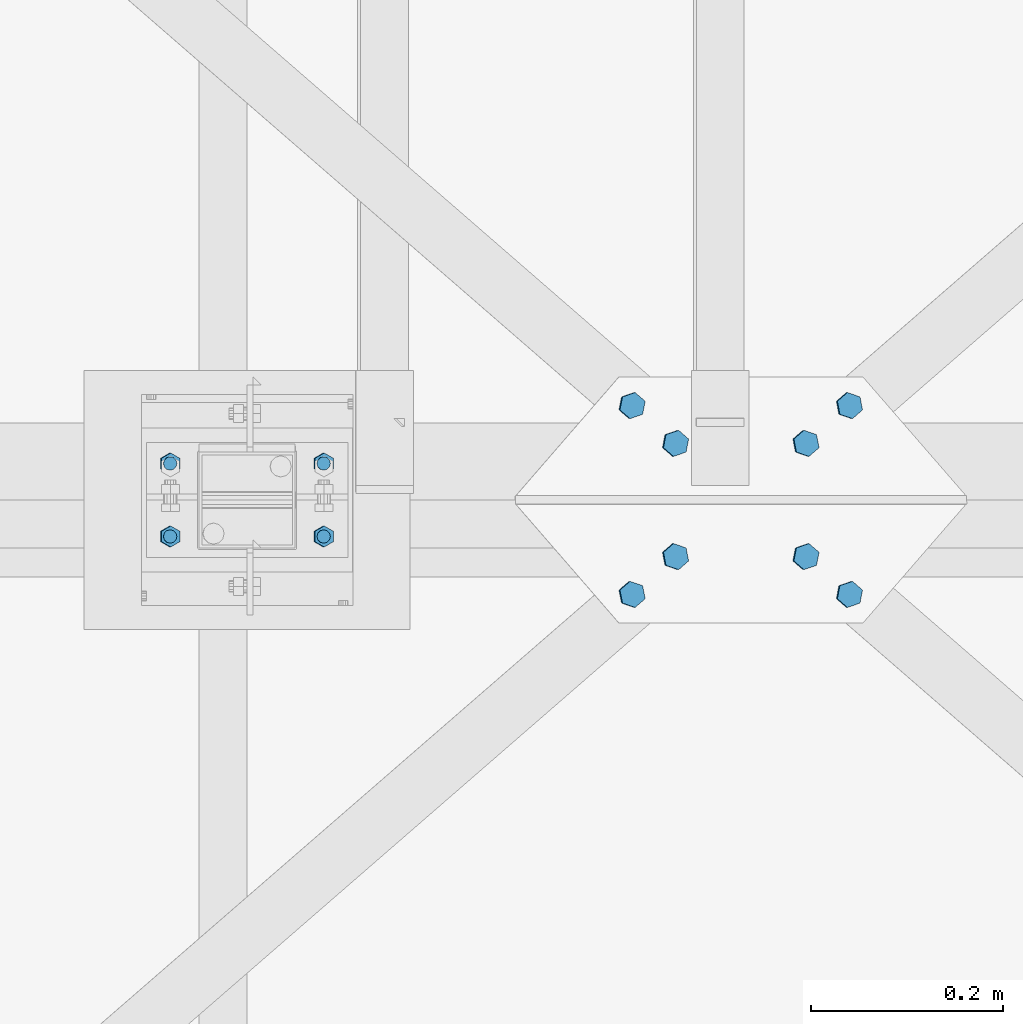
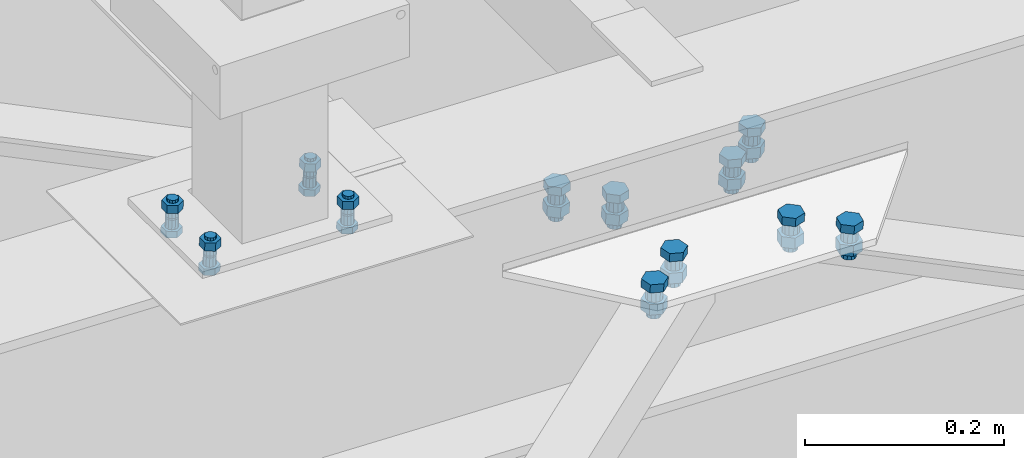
# One storey, part 241 of 3134: 6 mechanical fasteners, 4 elements without a shape of their own.
"""IFC2X3 building model written with IfcOpenShell, lengths in millimetres."""

from ifc_helpers import new_model, si_unit, frame, origin_with_axes, place, context, subcontext, project, spatial, faceted_brep, source, transform, mapped, material, type_object, element, aggregate, save


model = new_model("IFC2X3")

# Units and contexts
model_context = context("Model", 3, precision=1e-05, world=origin_with_axes())
body_context = subcontext(model_context, "Body", "Model", "MODEL_VIEW")
ifc_project = project(units=[si_unit("LENGTHUNIT", "METRE", prefix="MILLI"), si_unit("AREAUNIT", "SQUARE_METRE"), si_unit("VOLUMEUNIT", "CUBIC_METRE"), si_unit("MASSUNIT", "GRAM", prefix="KILO"), si_unit("TIMEUNIT", "SECOND"), si_unit("PLANEANGLEUNIT", "RADIAN"), si_unit("SOLIDANGLEUNIT", "STERADIAN"), si_unit("THERMODYNAMICTEMPERATUREUNIT", "DEGREE_CELSIUS"), si_unit("LUMINOUSINTENSITYUNIT", "LUMEN")], contexts=[model_context])

# Site, building, storey
site_placement = place(None, origin_with_axes())
site = spatial("IfcSite", under=ifc_project, at=site_placement, CompositionType="ELEMENT")
building_placement = place(site_placement, origin_with_axes())
building = spatial("IfcBuilding", under=site, at=building_placement, Name="Undefined", CompositionType="ELEMENT")
storey_placement = place(building_placement, origin_with_axes())
storey = spatial("IfcBuildingStorey", under=building, at=storey_placement, Name="Undefined", CompositionType="ELEMENT", Elevation=0.0)

# Assembly, mechanical fastener
assembly_1_placement = place(storey_placement, origin_with_axes())
assembly_1 = element("IfcElementAssembly", 1, at=assembly_1_placement, inside=storey, AssemblyPlace="NOTDEFINED", PredefinedType="RIGID_FRAME")
ifc_material = material(Name="8.8")
mechanical_fastener_type = type_object("IfcMechanicalFastenerType", Name="Bolt assembly")
shared_shape_1 = source(origin_with_axes(), body_context, "Body", "Brep", [
    faceted_brep([(7.0, 13.0000253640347, 0.0), (6.06217782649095, 13.0000253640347, 3.50000000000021), (3.49999999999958, 13.0000253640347, 6.06217782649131), (-7.25435187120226e-13, 13.0000253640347, 7.0), (-3.50000000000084, 13.0000253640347, 6.06217782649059), (-6.06217782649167, 13.0000253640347, 3.49999999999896), (-7.0, 13.0000253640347, -1.45087037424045e-12), (-6.06217782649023, 13.0000253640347, -3.50000000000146), (-3.49999999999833, 13.0000253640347, -6.06217782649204), (2.1685340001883e-12, 13.0000253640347, -7.0), (3.50000000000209, 13.0000253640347, -6.06217782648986), (6.0621778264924, 13.0000253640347, -3.4999999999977), (6.0621778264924, 15.0999999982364, -3.4999999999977), (3.50000000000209, 15.0999999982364, -6.06217782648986), (2.1685340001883e-12, 15.0999999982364, -7.0), (-3.49999999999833, 15.0999999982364, -6.06217782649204), (-6.06217782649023, 15.0999999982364, -3.50000000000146), (-7.0, 15.0999999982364, -1.45087037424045e-12), (-6.06217782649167, 15.0999999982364, 3.49999999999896), (-3.50000000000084, 15.0999999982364, 6.06217782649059), (-7.25435187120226e-13, 15.0999999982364, 7.0), (3.49999999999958, 15.0999999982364, 6.06217782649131), (6.06217782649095, 15.0999999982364, 3.50000000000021), (7.0, 15.0999999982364, 0.0)], [[[0, 1, 2, 3, 4, 5, 6, 7, 8, 9, 10, 11]], [[12, 13, 14, 15, 16, 17, 18, 19, 20, 21, 22, 23]], [[0, 23, 22, 1]], [[1, 22, 21, 2]], [[2, 21, 20, 3]], [[3, 20, 19, 4]], [[4, 19, 18, 5]], [[5, 18, 17, 6]], [[6, 17, 16, 7]], [[7, 16, 15, 8]], [[8, 15, 14, 9]], [[9, 14, 13, 10]], [[10, 13, 12, 11]], [[11, 12, 23, 0]]]),
])
mechanical_fastener_1_placement = place(assembly_1_placement, frame((28846.2851187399, 58258.0, 10291.8572055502), z_axis=(-0.99951962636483, 0.0, 0.0309922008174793), x_axis=(0.0, -1.0, 0.0)))
mechanical_fastener_1 = element("IfcMechanicalFastener", 2, at=mechanical_fastener_1_placement, type_object=mechanical_fastener_type, material=ifc_material, Name="Bolt assembly", NominalDiameter=12.0, NominalLength=2.0, context=body_context, shape_type="MappedRepresentation", body=[
    mapped(shared_shape_1, transform((0.0, -5.32963895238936e-10, -79.9999999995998))),
    mapped(shared_shape_1, transform((76.0, -5.32963895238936e-10, -79.9999999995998))),
    mapped(shared_shape_1, transform((0.0, 5.3114490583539e-10, 79.9999999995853))),
    mapped(shared_shape_1, transform((76.0, 5.3114490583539e-10, 79.9999999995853))),
])
aggregate(assembly_1, [mechanical_fastener_1])

assembly_2_placement = place(storey_placement, origin_with_axes())
assembly_2 = element("IfcElementAssembly", 3, at=assembly_2_placement, inside=storey, AssemblyPlace="NOTDEFINED", PredefinedType="RIGID_FRAME")
shared_shape_2 = source(origin_with_axes(), body_context, "Body", "Brep", [
    faceted_brep([(13.856406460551, -14.0, 0.0), (6.92820323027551, -14.0, 12.0), (-6.92820323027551, -14.0, 12.0), (-13.856406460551, -14.0, 1.69692038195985e-15), (-6.92820323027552, -14.0, -12.0), (6.9282032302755, -14.0, -12.0), (6.9282032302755, -4.00000145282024, -12.0), (-6.92820323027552, -4.00000145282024, -12.0), (-13.856406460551, -4.00000145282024, 1.69692038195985e-15), (-6.92820323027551, -4.00000145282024, 12.0), (6.92820323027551, -4.00000145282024, 12.0), (13.856406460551, -4.00000145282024, 0.0), (8.0, -4.00000145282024, 0.0), (6.92820323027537, -4.00000145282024, 4.00000000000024), (3.99999999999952, -4.00000145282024, 6.92820323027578), (-8.29068785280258e-13, -4.00000145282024, 8.0), (-4.00000000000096, -4.00000145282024, 6.92820323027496), (-6.9282032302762, -4.00000145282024, 3.99999999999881), (-8.0, -4.00000145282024, -1.65813757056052e-12), (-6.92820323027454, -4.00000145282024, -4.00000000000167), (-3.99999999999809, -4.00000145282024, -6.92820323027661), (2.47832457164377e-12, -4.00000145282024, -8.0), (4.00000000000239, -4.00000145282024, -6.92820323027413), (6.92820323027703, -4.00000145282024, -3.99999999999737), (6.92820323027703, 31.0, -3.99999999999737), (4.00000000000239, 31.0, -6.92820323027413), (2.47832457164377e-12, 31.0, -8.0), (-3.99999999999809, 31.0, -6.92820323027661), (-6.92820323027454, 31.0, -4.00000000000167), (-8.0, 31.0, -1.65813757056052e-12), (-6.9282032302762, 31.0, 3.99999999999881), (-4.00000000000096, 31.0, 6.92820323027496), (-8.29068785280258e-13, 31.0, 8.0), (3.99999999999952, 31.0, 6.92820323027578), (6.92820323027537, 31.0, 4.00000000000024), (8.0, 31.0, 0.0), (13.856406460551, 9.99999995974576, 0.0), (6.92820323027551, 9.99999995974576, 12.0), (-6.92820323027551, 9.99999995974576, 12.0), (-13.856406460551, 9.99999995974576, 1.69692038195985e-15), (-6.92820323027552, 9.99999995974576, -12.0), (6.9282032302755, 9.99999995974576, -12.0), (6.9282032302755, 22.9999913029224, -12.0), (-6.92820323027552, 22.9999913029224, -12.0), (-13.856406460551, 22.9999913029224, 1.69692038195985e-15), (-6.92820323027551, 22.9999913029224, 12.0), (6.92820323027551, 22.9999913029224, 12.0), (13.856406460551, 22.9999913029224, 0.0)], [[[0, 1, 2, 3, 4, 5]], [[6, 7, 8, 9, 10, 11]], [[0, 11, 10, 1]], [[1, 10, 9, 2]], [[2, 9, 8, 3]], [[3, 8, 7, 4]], [[4, 7, 6, 5]], [[5, 6, 11, 0]], [[12, 13, 14, 15, 16, 17, 18, 19, 20, 21, 22, 23]], [[24, 25, 26, 27, 28, 29, 30, 31, 32, 33, 34, 35]], [[12, 35, 34, 13]], [[13, 34, 33, 14]], [[14, 33, 32, 15]], [[15, 32, 31, 16]], [[16, 31, 30, 17]], [[17, 30, 29, 18]], [[18, 29, 28, 19]], [[19, 28, 27, 20]], [[20, 27, 26, 21]], [[21, 26, 25, 22]], [[22, 25, 24, 23]], [[23, 24, 35, 12]], [[36, 37, 38, 39, 40, 41]], [[42, 43, 44, 45, 46, 47]], [[36, 47, 46, 37]], [[37, 46, 45, 38]], [[38, 45, 44, 39]], [[39, 44, 43, 40]], [[40, 43, 42, 41]], [[41, 42, 47, 36]]]),
    faceted_brep([(9.0, -3.9, 0.0), (7.79422863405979, -3.9, 4.50000000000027), (4.49999999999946, -3.9, 7.79422863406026), (-9.3270238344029e-13, -3.9, 9.0), (-4.50000000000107, -3.9, 7.79422863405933), (-7.79422863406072, -3.9, 4.49999999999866), (-9.0, -3.9, -1.86540476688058e-12), (-7.79422863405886, -3.9, -4.50000000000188), (-4.49999999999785, -3.9, -7.79422863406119), (2.78811514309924e-12, -3.9, -9.0), (4.50000000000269, -3.9, -7.7942286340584), (7.79422863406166, -3.9, -4.49999999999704), (7.79422863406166, 4.09999854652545, -4.49999999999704), (4.50000000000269, 4.09999854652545, -7.7942286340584), (2.78811514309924e-12, 4.09999854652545, -9.0), (-4.49999999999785, 4.09999854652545, -7.79422863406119), (-7.79422863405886, 4.09999854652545, -4.50000000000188), (-9.0, 4.09999854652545, -1.86540476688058e-12), (-7.79422863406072, 4.09999854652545, 4.49999999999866), (-4.50000000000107, 4.09999854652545, 7.79422863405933), (-9.3270238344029e-13, 4.09999854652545, 9.0), (4.49999999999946, 4.09999854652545, 7.79422863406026), (7.79422863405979, 4.09999854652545, 4.50000000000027), (9.0, 4.09999854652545, 0.0), (9.0, 3.9, 0.0), (7.79422863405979, 3.9, 4.50000000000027), (4.49999999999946, 3.9, 7.79422863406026), (-9.3270238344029e-13, 3.9, 9.0), (-4.50000000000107, 3.9, 7.79422863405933), (-7.79422863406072, 3.9, 4.49999999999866), (-9.0, 3.9, -1.86540476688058e-12), (-7.79422863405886, 3.9, -4.50000000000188), (-4.49999999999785, 3.9, -7.79422863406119), (2.78811514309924e-12, 3.9, -9.0), (4.50000000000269, 3.9, -7.7942286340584), (7.79422863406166, 3.9, -4.49999999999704), (7.79422863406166, 9.99999995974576, -4.49999999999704), (4.50000000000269, 9.99999995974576, -7.7942286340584), (2.78811514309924e-12, 9.99999995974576, -9.0), (-4.49999999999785, 9.99999995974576, -7.79422863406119), (-7.79422863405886, 9.99999995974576, -4.50000000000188), (-9.0, 9.99999995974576, -1.86540476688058e-12), (-7.79422863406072, 9.99999995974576, 4.49999999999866), (-4.50000000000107, 9.99999995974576, 7.79422863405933), (-9.3270238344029e-13, 9.99999995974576, 9.0), (4.49999999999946, 9.99999995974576, 7.79422863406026), (7.79422863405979, 9.99999995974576, 4.50000000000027), (9.0, 9.99999995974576, 0.0)], [[[0, 1, 2, 3, 4, 5, 6, 7, 8, 9, 10, 11]], [[12, 13, 14, 15, 16, 17, 18, 19, 20, 21, 22, 23]], [[0, 23, 22, 1]], [[1, 22, 21, 2]], [[2, 21, 20, 3]], [[3, 20, 19, 4]], [[4, 19, 18, 5]], [[5, 18, 17, 6]], [[6, 17, 16, 7]], [[7, 16, 15, 8]], [[8, 15, 14, 9]], [[9, 14, 13, 10]], [[10, 13, 12, 11]], [[11, 12, 23, 0]], [[24, 25, 26, 27, 28, 29, 30, 31, 32, 33, 34, 35]], [[36, 37, 38, 39, 40, 41, 42, 43, 44, 45, 46, 47]], [[24, 47, 46, 25]], [[25, 46, 45, 26]], [[26, 45, 44, 27]], [[27, 44, 43, 28]], [[28, 43, 42, 29]], [[29, 42, 41, 30]], [[30, 41, 40, 31]], [[31, 40, 39, 32]], [[32, 39, 38, 33]], [[33, 38, 37, 34]], [[34, 37, 36, 35]], [[35, 36, 47, 24]]]),
])
mechanical_fastener_2_placement = place(assembly_2_placement, frame((29248.0234175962, 58121.6643115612, 10132.3444125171), z_axis=(-0.655256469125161, 0.755133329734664, 0.0203129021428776), x_axis=(0.754770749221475, 0.655571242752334, -0.0233979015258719)))
mechanical_fastener_2 = element("IfcMechanicalFastener", 4, at=mechanical_fastener_2_placement, type_object=mechanical_fastener_type, material=ifc_material, Name="Bolt assembly", NominalDiameter=16.0, NominalLength=35.0, context=body_context, shape_type="MappedRepresentation", body=[
    mapped(shared_shape_2, transform((0.0, 0.0, 0.0))),
    mapped(shared_shape_2, transform((59.9999999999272, 0.0, 5.40239852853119e-10))),
])
aggregate(assembly_2, [mechanical_fastener_2])

assembly_3_placement = place(storey_placement, origin_with_axes())
assembly_3 = element("IfcElementAssembly", 5, at=assembly_3_placement, inside=storey, AssemblyPlace="NOTDEFINED", PredefinedType="RIGID_FRAME")
mechanical_fastener_3_placement = place(assembly_3_placement, frame((29248.0296353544, 58318.3270207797, 10132.3442197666), z_axis=(0.655246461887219, 0.755142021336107, -0.020312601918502), x_axis=(0.754779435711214, -0.655561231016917, -0.0233982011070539)))
mechanical_fastener_3 = element("IfcMechanicalFastener", 6, at=mechanical_fastener_3_placement, type_object=mechanical_fastener_type, material=ifc_material, Name="Bolt assembly", NominalDiameter=16.0, NominalLength=35.0, context=body_context, shape_type="MappedRepresentation", body=[
    mapped(shared_shape_2, transform((0.0, 0.0, 0.0))),
    mapped(shared_shape_2, transform((59.9999999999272, 0.0, 5.40239852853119e-10))),
])
aggregate(assembly_3, [mechanical_fastener_3])

# Assembly, mechanical fasteners
assembly_4_placement = place(storey_placement, origin_with_axes())
assembly_4 = element("IfcElementAssembly", 7, at=assembly_4_placement, inside=storey, Name="IPE330", AssemblyPlace="NOTDEFINED", PredefinedType="RIGID_FRAME")
shared_shape_3 = source(origin_with_axes(), body_context, "Body", "Brep", [
    faceted_brep([(13.856406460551, -14.0, 0.0), (6.92820323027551, -14.0, 12.0), (-6.92820323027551, -14.0, 12.0), (-13.856406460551, -14.0, 1.69692038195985e-15), (-6.92820323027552, -14.0, -12.0), (6.9282032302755, -14.0, -12.0), (6.9282032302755, -4.00000145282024, -12.0), (-6.92820323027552, -4.00000145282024, -12.0), (-13.856406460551, -4.00000145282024, 1.69692038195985e-15), (-6.92820323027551, -4.00000145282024, 12.0), (6.92820323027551, -4.00000145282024, 12.0), (13.856406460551, -4.00000145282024, 0.0), (8.0, -4.00000145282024, 0.0), (6.92820323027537, -4.00000145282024, 4.00000000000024), (3.99999999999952, -4.00000145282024, 6.92820323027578), (-8.29068785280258e-13, -4.00000145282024, 8.0), (-4.00000000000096, -4.00000145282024, 6.92820323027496), (-6.9282032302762, -4.00000145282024, 3.99999999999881), (-8.0, -4.00000145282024, -1.65813757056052e-12), (-6.92820323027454, -4.00000145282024, -4.00000000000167), (-3.99999999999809, -4.00000145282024, -6.92820323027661), (2.47832457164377e-12, -4.00000145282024, -8.0), (4.00000000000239, -4.00000145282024, -6.92820323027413), (6.92820323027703, -4.00000145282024, -3.99999999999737), (6.92820323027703, 31.0, -3.99999999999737), (4.00000000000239, 31.0, -6.92820323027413), (2.47832457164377e-12, 31.0, -8.0), (-3.99999999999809, 31.0, -6.92820323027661), (-6.92820323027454, 31.0, -4.00000000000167), (-8.0, 31.0, -1.65813757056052e-12), (-6.9282032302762, 31.0, 3.99999999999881), (-4.00000000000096, 31.0, 6.92820323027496), (-8.29068785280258e-13, 31.0, 8.0), (3.99999999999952, 31.0, 6.92820323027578), (6.92820323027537, 31.0, 4.00000000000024), (8.0, 31.0, 0.0), (13.856406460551, 9.99999995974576, 0.0), (6.92820323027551, 9.99999995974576, 12.0), (-6.92820323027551, 9.99999995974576, 12.0), (-13.856406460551, 9.99999995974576, 1.69692038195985e-15), (-6.92820323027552, 9.99999995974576, -12.0), (6.9282032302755, 9.99999995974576, -12.0), (6.9282032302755, 22.9999913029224, -12.0), (-6.92820323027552, 22.9999913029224, -12.0), (-13.856406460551, 22.9999913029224, 1.69692038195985e-15), (-6.92820323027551, 22.9999913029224, 12.0), (6.92820323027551, 22.9999913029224, 12.0), (13.856406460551, 22.9999913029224, 0.0)], [[[0, 1, 2, 3, 4, 5]], [[6, 7, 8, 9, 10, 11]], [[0, 11, 10, 1]], [[1, 10, 9, 2]], [[2, 9, 8, 3]], [[3, 8, 7, 4]], [[4, 7, 6, 5]], [[5, 6, 11, 0]], [[12, 13, 14, 15, 16, 17, 18, 19, 20, 21, 22, 23]], [[24, 25, 26, 27, 28, 29, 30, 31, 32, 33, 34, 35]], [[12, 35, 34, 13]], [[13, 34, 33, 14]], [[14, 33, 32, 15]], [[15, 32, 31, 16]], [[16, 31, 30, 17]], [[17, 30, 29, 18]], [[18, 29, 28, 19]], [[19, 28, 27, 20]], [[20, 27, 26, 21]], [[21, 26, 25, 22]], [[22, 25, 24, 23]], [[23, 24, 35, 12]], [[36, 37, 38, 39, 40, 41]], [[42, 43, 44, 45, 46, 47]], [[36, 47, 46, 37]], [[37, 46, 45, 38]], [[38, 45, 44, 39]], [[39, 44, 43, 40]], [[40, 43, 42, 41]], [[41, 42, 47, 36]]]),
    faceted_brep([(9.0, 3.9, 0.0), (7.79422863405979, 3.9, 4.50000000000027), (4.49999999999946, 3.9, 7.79422863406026), (-9.3270238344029e-13, 3.9, 9.0), (-4.50000000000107, 3.9, 7.79422863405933), (-7.79422863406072, 3.9, 4.49999999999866), (-9.0, 3.9, -1.86540476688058e-12), (-7.79422863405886, 3.9, -4.50000000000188), (-4.49999999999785, 3.9, -7.79422863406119), (2.78811514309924e-12, 3.9, -9.0), (4.50000000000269, 3.9, -7.7942286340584), (7.79422863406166, 3.9, -4.49999999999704), (7.79422863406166, 9.99999995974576, -4.49999999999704), (4.50000000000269, 9.99999995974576, -7.7942286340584), (2.78811514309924e-12, 9.99999995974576, -9.0), (-4.49999999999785, 9.99999995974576, -7.79422863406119), (-7.79422863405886, 9.99999995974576, -4.50000000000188), (-9.0, 9.99999995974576, -1.86540476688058e-12), (-7.79422863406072, 9.99999995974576, 4.49999999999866), (-4.50000000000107, 9.99999995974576, 7.79422863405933), (-9.3270238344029e-13, 9.99999995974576, 9.0), (4.49999999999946, 9.99999995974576, 7.79422863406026), (7.79422863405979, 9.99999995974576, 4.50000000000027), (9.0, 9.99999995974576, 0.0), (9.0, -3.9, 0.0), (7.79422863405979, -3.9, 4.50000000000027), (4.49999999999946, -3.9, 7.79422863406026), (-9.3270238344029e-13, -3.9, 9.0), (-4.50000000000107, -3.9, 7.79422863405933), (-7.79422863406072, -3.9, 4.49999999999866), (-9.0, -3.9, -1.86540476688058e-12), (-7.79422863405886, -3.9, -4.50000000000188), (-4.49999999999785, -3.9, -7.79422863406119), (2.78811514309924e-12, -3.9, -9.0), (4.50000000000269, -3.9, -7.7942286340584), (7.79422863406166, -3.9, -4.49999999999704), (7.79422863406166, 4.09999854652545, -4.49999999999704), (4.50000000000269, 4.09999854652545, -7.7942286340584), (2.78811514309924e-12, 4.09999854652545, -9.0), (-4.49999999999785, 4.09999854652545, -7.79422863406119), (-7.79422863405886, 4.09999854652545, -4.50000000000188), (-9.0, 4.09999854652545, -1.86540476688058e-12), (-7.79422863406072, 4.09999854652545, 4.49999999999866), (-4.50000000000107, 4.09999854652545, 7.79422863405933), (-9.3270238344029e-13, 4.09999854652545, 9.0), (4.49999999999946, 4.09999854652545, 7.79422863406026), (7.79422863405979, 4.09999854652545, 4.50000000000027), (9.0, 4.09999854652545, 0.0)], [[[0, 1, 2, 3, 4, 5, 6, 7, 8, 9, 10, 11]], [[12, 13, 14, 15, 16, 17, 18, 19, 20, 21, 22, 23]], [[0, 23, 22, 1]], [[1, 22, 21, 2]], [[2, 21, 20, 3]], [[3, 20, 19, 4]], [[4, 19, 18, 5]], [[5, 18, 17, 6]], [[6, 17, 16, 7]], [[7, 16, 15, 8]], [[8, 15, 14, 9]], [[9, 14, 13, 10]], [[10, 13, 12, 11]], [[11, 12, 23, 0]], [[24, 25, 26, 27, 28, 29, 30, 31, 32, 33, 34, 35]], [[36, 37, 38, 39, 40, 41, 42, 43, 44, 45, 46, 47]], [[24, 47, 46, 25]], [[25, 46, 45, 26]], [[26, 45, 44, 27]], [[27, 44, 43, 28]], [[28, 43, 42, 29]], [[29, 42, 41, 30]], [[30, 41, 40, 31]], [[31, 40, 39, 32]], [[32, 39, 38, 33]], [[33, 38, 37, 34]], [[34, 37, 36, 35]], [[35, 36, 47, 24]]]),
])
mechanical_fastener_4_placement = place(assembly_4_placement, frame((29429.1737707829, 58161.0047863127, 10126.7287515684), z_axis=(0.655215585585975, 0.755168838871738, -0.0203116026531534), x_axis=(0.754806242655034, -0.65553033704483, -0.0233990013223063)))
mechanical_fastener_4 = element("IfcMechanicalFastener", 8, at=mechanical_fastener_4_placement, type_object=mechanical_fastener_type, material=ifc_material, Name="Bolt assembly", NominalDiameter=16.0, NominalLength=35.0, context=body_context, shape_type="MappedRepresentation", body=[
    mapped(shared_shape_3, transform((0.0, 0.0, 0.0))),
    mapped(shared_shape_3, transform((59.9999999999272, 0.0, 5.40239852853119e-10))),
])
shared_shape_4 = source(origin_with_axes(), body_context, "Body", "Brep", [
    faceted_brep([(13.856406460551, -14.0, 0.0), (6.92820323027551, -14.0, 12.0), (-6.92820323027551, -14.0, 12.0), (-13.856406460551, -14.0, 1.69692038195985e-15), (-6.92820323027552, -14.0, -12.0), (6.9282032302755, -14.0, -12.0), (6.9282032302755, -4.00000145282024, -12.0), (-6.92820323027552, -4.00000145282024, -12.0), (-13.856406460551, -4.00000145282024, 1.69692038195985e-15), (-6.92820323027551, -4.00000145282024, 12.0), (6.92820323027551, -4.00000145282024, 12.0), (13.856406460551, -4.00000145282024, 0.0), (8.0, -4.00000145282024, 0.0), (6.92820323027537, -4.00000145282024, 4.00000000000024), (3.99999999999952, -4.00000145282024, 6.92820323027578), (-8.29068785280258e-13, -4.00000145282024, 8.0), (-4.00000000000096, -4.00000145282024, 6.92820323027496), (-6.9282032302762, -4.00000145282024, 3.99999999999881), (-8.0, -4.00000145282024, -1.65813757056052e-12), (-6.92820323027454, -4.00000145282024, -4.00000000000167), (-3.99999999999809, -4.00000145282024, -6.92820323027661), (2.47832457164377e-12, -4.00000145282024, -8.0), (4.00000000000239, -4.00000145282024, -6.92820323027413), (6.92820323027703, -4.00000145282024, -3.99999999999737), (6.92820323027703, 31.0, -3.99999999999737), (4.00000000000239, 31.0, -6.92820323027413), (2.47832457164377e-12, 31.0, -8.0), (-3.99999999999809, 31.0, -6.92820323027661), (-6.92820323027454, 31.0, -4.00000000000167), (-8.0, 31.0, -1.65813757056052e-12), (-6.9282032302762, 31.0, 3.99999999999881), (-4.00000000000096, 31.0, 6.92820323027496), (-8.29068785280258e-13, 31.0, 8.0), (3.99999999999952, 31.0, 6.92820323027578), (6.92820323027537, 31.0, 4.00000000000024), (8.0, 31.0, 0.0), (13.856406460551, 10.0000943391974, 0.0), (6.92820323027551, 10.0000943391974, 12.0), (-6.92820323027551, 10.0000943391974, 12.0), (-13.856406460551, 10.0000943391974, 1.69692038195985e-15), (-6.92820323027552, 10.0000943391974, -12.0), (6.9282032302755, 10.0000943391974, -12.0), (6.9282032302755, 23.0000943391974, -12.0), (-6.92820323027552, 23.0000943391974, -12.0), (-13.856406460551, 23.0000943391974, 1.69692038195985e-15), (-6.92820323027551, 23.0000943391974, 12.0), (6.92820323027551, 23.0000943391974, 12.0), (13.856406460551, 23.0000943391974, 0.0)], [[[0, 1, 2, 3, 4, 5]], [[6, 7, 8, 9, 10, 11]], [[0, 11, 10, 1]], [[1, 10, 9, 2]], [[2, 9, 8, 3]], [[3, 8, 7, 4]], [[4, 7, 6, 5]], [[5, 6, 11, 0]], [[12, 13, 14, 15, 16, 17, 18, 19, 20, 21, 22, 23]], [[24, 25, 26, 27, 28, 29, 30, 31, 32, 33, 34, 35]], [[12, 35, 34, 13]], [[13, 34, 33, 14]], [[14, 33, 32, 15]], [[15, 32, 31, 16]], [[16, 31, 30, 17]], [[17, 30, 29, 18]], [[18, 29, 28, 19]], [[19, 28, 27, 20]], [[20, 27, 26, 21]], [[21, 26, 25, 22]], [[22, 25, 24, 23]], [[23, 24, 35, 12]], [[36, 37, 38, 39, 40, 41]], [[42, 43, 44, 45, 46, 47]], [[36, 47, 46, 37]], [[37, 46, 45, 38]], [[38, 45, 44, 39]], [[39, 44, 43, 40]], [[40, 43, 42, 41]], [[41, 42, 47, 36]]]),
    faceted_brep([(9.0, 3.90009433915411, 0.0), (7.79422863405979, 3.90009433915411, 4.50000000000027), (4.49999999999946, 3.90009433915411, 7.79422863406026), (-9.3270238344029e-13, 3.90009433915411, 9.0), (-4.50000000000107, 3.90009433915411, 7.79422863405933), (-7.79422863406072, 3.90009433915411, 4.49999999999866), (-9.0, 3.90009433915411, -1.86540476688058e-12), (-7.79422863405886, 3.90009433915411, -4.50000000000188), (-4.49999999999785, 3.90009433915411, -7.79422863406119), (2.78811514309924e-12, 3.90009433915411, -9.0), (4.50000000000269, 3.90009433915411, -7.7942286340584), (7.79422863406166, 3.90009433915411, -4.49999999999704), (7.79422863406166, 10.0000943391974, -4.49999999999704), (4.50000000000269, 10.0000943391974, -7.7942286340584), (2.78811514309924e-12, 10.0000943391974, -9.0), (-4.49999999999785, 10.0000943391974, -7.79422863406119), (-7.79422863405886, 10.0000943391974, -4.50000000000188), (-9.0, 10.0000943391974, -1.86540476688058e-12), (-7.79422863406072, 10.0000943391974, 4.49999999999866), (-4.50000000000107, 10.0000943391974, 7.79422863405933), (-9.3270238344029e-13, 10.0000943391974, 9.0), (4.49999999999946, 10.0000943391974, 7.79422863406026), (7.79422863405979, 10.0000943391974, 4.50000000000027), (9.0, 10.0000943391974, 0.0), (9.0, -3.9, 0.0), (7.79422863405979, -3.9, 4.50000000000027), (4.49999999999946, -3.9, 7.79422863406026), (-9.3270238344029e-13, -3.9, 9.0), (-4.50000000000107, -3.9, 7.79422863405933), (-7.79422863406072, -3.9, 4.49999999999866), (-9.0, -3.9, -1.86540476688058e-12), (-7.79422863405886, -3.9, -4.50000000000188), (-4.49999999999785, -3.9, -7.79422863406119), (2.78811514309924e-12, -3.9, -9.0), (4.50000000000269, -3.9, -7.7942286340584), (7.79422863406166, -3.9, -4.49999999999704), (7.79422863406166, 4.09999854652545, -4.49999999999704), (4.50000000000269, 4.09999854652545, -7.7942286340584), (2.78811514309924e-12, 4.09999854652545, -9.0), (-4.49999999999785, 4.09999854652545, -7.79422863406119), (-7.79422863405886, 4.09999854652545, -4.50000000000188), (-9.0, 4.09999854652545, -1.86540476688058e-12), (-7.79422863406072, 4.09999854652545, 4.49999999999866), (-4.50000000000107, 4.09999854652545, 7.79422863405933), (-9.3270238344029e-13, 4.09999854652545, 9.0), (4.49999999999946, 4.09999854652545, 7.79422863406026), (7.79422863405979, 4.09999854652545, 4.50000000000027), (9.0, 4.09999854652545, 0.0)], [[[0, 1, 2, 3, 4, 5, 6, 7, 8, 9, 10, 11]], [[12, 13, 14, 15, 16, 17, 18, 19, 20, 21, 22, 23]], [[0, 23, 22, 1]], [[1, 22, 21, 2]], [[2, 21, 20, 3]], [[3, 20, 19, 4]], [[4, 19, 18, 5]], [[5, 18, 17, 6]], [[6, 17, 16, 7]], [[7, 16, 15, 8]], [[8, 15, 14, 9]], [[9, 14, 13, 10]], [[10, 13, 12, 11]], [[11, 12, 23, 0]], [[24, 25, 26, 27, 28, 29, 30, 31, 32, 33, 34, 35]], [[36, 37, 38, 39, 40, 41, 42, 43, 44, 45, 46, 47]], [[24, 47, 46, 25]], [[25, 46, 45, 26]], [[26, 45, 44, 27]], [[27, 44, 43, 28]], [[28, 43, 42, 29]], [[29, 42, 41, 30]], [[30, 41, 40, 31]], [[31, 40, 39, 32]], [[32, 39, 38, 33]], [[33, 38, 37, 34]], [[34, 37, 36, 35]], [[35, 36, 47, 24]]]),
])
mechanical_fastener_5_placement = place(assembly_4_placement, frame((29429.1821308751, 58279.0014123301, 10126.7284924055), z_axis=(-0.65522676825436, 0.755159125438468, 0.0203120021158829), x_axis=(0.754796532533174, 0.655541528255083, -0.0233987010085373)))
mechanical_fastener_5 = element("IfcMechanicalFastener", 9, at=mechanical_fastener_5_placement, type_object=mechanical_fastener_type, material=ifc_material, Name="Bolt assembly", NominalDiameter=16.0, NominalLength=35.0, context=body_context, shape_type="MappedRepresentation", body=[
    mapped(shared_shape_4, transform((0.0, 0.0, 0.0))),
    mapped(shared_shape_4, transform((59.9999999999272, 0.0, 5.40239852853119e-10))),
])
shared_shape_5 = source(origin_with_axes(), body_context, "Body", "Brep", [
    faceted_brep([(10.9696551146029, -6.4876179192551, 0.0), (5.48482755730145, -6.4876179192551, 9.5), (-5.48482755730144, -6.4876179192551, 9.5), (-10.9696551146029, -6.4876179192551, 1.34339530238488e-15), (-5.48482755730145, -6.4876179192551, -9.5), (5.48482755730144, -6.4876179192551, -9.50000000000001), (5.48482755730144, 1.5123820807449, -9.50000000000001), (-5.48482755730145, 1.5123820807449, -9.5), (-10.9696551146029, 1.5123820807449, 1.34339530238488e-15), (-5.48482755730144, 1.5123820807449, 9.5), (5.48482755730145, 1.5123820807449, 9.5), (10.9696551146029, 1.5123820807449, 0.0), (6.0, 1.5123820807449, 0.0), (5.19615242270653, 1.5123820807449, 3.00000000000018), (2.99999999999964, 1.5123820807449, 5.19615242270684), (-6.21801588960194e-13, 1.5123820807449, 6.0), (-3.00000000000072, 1.5123820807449, 5.19615242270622), (-5.19615242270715, 1.5123820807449, 2.9999999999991), (-6.0, 1.5123820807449, -1.24360317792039e-12), (-5.19615242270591, 1.5123820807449, -3.00000000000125), (-2.99999999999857, 1.5123820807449, -5.19615242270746), (1.85874342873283e-12, 1.5123820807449, -6.0), (3.00000000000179, 1.5123820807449, -5.1961524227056), (5.19615242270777, 1.5123820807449, -2.99999999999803), (5.19615242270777, 36.5123820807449, -2.99999999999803), (3.00000000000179, 36.5123820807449, -5.1961524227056), (1.85874342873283e-12, 36.5123820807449, -6.0), (-2.99999999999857, 36.5123820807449, -5.19615242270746), (-5.19615242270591, 36.5123820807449, -3.00000000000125), (-6.0, 36.5123820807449, -1.24360317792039e-12), (-5.19615242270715, 36.5123820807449, 2.9999999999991), (-3.00000000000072, 36.5123820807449, 5.19615242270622), (-6.21801588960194e-13, 36.5123820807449, 6.0), (2.99999999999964, 36.5123820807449, 5.19615242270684), (5.19615242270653, 36.5123820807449, 3.00000000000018), (6.0, 36.5123820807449, 0.0), (10.9696551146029, 23.0039050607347, 0.0), (5.48482755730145, 23.0039050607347, 9.5), (-5.48482755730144, 23.0039050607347, 9.5), (-10.9696551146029, 23.0039050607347, 1.34339530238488e-15), (-5.48482755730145, 23.0039050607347, -9.5), (5.48482755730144, 23.0039050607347, -9.50000000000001), (5.48482755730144, 33.0039050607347, -9.50000000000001), (-5.48482755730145, 33.0039050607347, -9.5), (-10.9696551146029, 33.0039050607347, 1.34339530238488e-15), (-5.48482755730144, 33.0039050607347, 9.5), (5.48482755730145, 33.0039050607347, 9.5), (10.9696551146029, 33.0039050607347, 0.0)], [[[0, 1, 2, 3, 4, 5]], [[6, 7, 8, 9, 10, 11]], [[0, 11, 10, 1]], [[1, 10, 9, 2]], [[2, 9, 8, 3]], [[3, 8, 7, 4]], [[4, 7, 6, 5]], [[5, 6, 11, 0]], [[12, 13, 14, 15, 16, 17, 18, 19, 20, 21, 22, 23]], [[24, 25, 26, 27, 28, 29, 30, 31, 32, 33, 34, 35]], [[12, 35, 34, 13]], [[13, 34, 33, 14]], [[14, 33, 32, 15]], [[15, 32, 31, 16]], [[16, 31, 30, 17]], [[17, 30, 29, 18]], [[18, 29, 28, 19]], [[19, 28, 27, 20]], [[20, 27, 26, 21]], [[21, 26, 25, 22]], [[22, 25, 24, 23]], [[23, 24, 35, 12]], [[36, 37, 38, 39, 40, 41]], [[42, 43, 44, 45, 46, 47]], [[36, 47, 46, 37]], [[37, 46, 45, 38]], [[38, 45, 44, 39]], [[39, 44, 43, 40]], [[40, 43, 42, 41]], [[41, 42, 47, 36]]]),
    faceted_brep([(7.0, 14.9039050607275, 0.0), (6.06217782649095, 14.9039050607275, 3.50000000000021), (3.49999999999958, 14.9039050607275, 6.06217782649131), (-7.25435187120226e-13, 14.9039050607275, 7.0), (-3.50000000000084, 14.9039050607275, 6.06217782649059), (-6.06217782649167, 14.9039050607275, 3.49999999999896), (-7.0, 14.9039050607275, -1.45087037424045e-12), (-6.06217782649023, 14.9039050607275, -3.50000000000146), (-3.49999999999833, 14.9039050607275, -6.06217782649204), (2.1685340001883e-12, 14.9039050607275, -7.0), (3.50000000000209, 14.9039050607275, -6.06217782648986), (6.0621778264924, 14.9039050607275, -3.4999999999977), (6.0621778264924, 23.0039050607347, -3.4999999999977), (3.50000000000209, 23.0039050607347, -6.06217782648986), (2.1685340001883e-12, 23.0039050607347, -7.0), (-3.49999999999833, 23.0039050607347, -6.06217782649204), (-6.06217782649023, 23.0039050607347, -3.50000000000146), (-7.0, 23.0039050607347, -1.45087037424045e-12), (-6.06217782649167, 23.0039050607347, 3.49999999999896), (-3.50000000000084, 23.0039050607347, 6.06217782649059), (-7.25435187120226e-13, 23.0039050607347, 7.0), (3.49999999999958, 23.0039050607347, 6.06217782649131), (6.06217782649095, 23.0039050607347, 3.50000000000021), (7.0, 23.0039050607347, 0.0), (7.0, 1.6123820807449, 0.0), (6.06217782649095, 1.6123820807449, 3.50000000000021), (3.49999999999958, 1.6123820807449, 6.06217782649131), (-7.25435187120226e-13, 1.6123820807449, 7.0), (-3.50000000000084, 1.6123820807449, 6.06217782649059), (-6.06217782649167, 1.6123820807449, 3.49999999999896), (-7.0, 1.6123820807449, -1.45087037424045e-12), (-6.06217782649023, 1.6123820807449, -3.50000000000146), (-3.49999999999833, 1.6123820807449, -6.06217782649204), (2.1685340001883e-12, 1.6123820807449, -7.0), (3.50000000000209, 1.6123820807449, -6.06217782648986), (6.0621778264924, 1.6123820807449, -3.4999999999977), (6.0621778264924, 13.1123820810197, -3.4999999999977), (3.50000000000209, 13.1123820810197, -6.06217782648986), (2.1685340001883e-12, 13.1123820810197, -7.0), (-3.49999999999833, 13.1123820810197, -6.06217782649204), (-6.06217782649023, 13.1123820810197, -3.50000000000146), (-7.0, 13.1123820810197, -1.45087037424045e-12), (-6.06217782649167, 13.1123820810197, 3.49999999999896), (-3.50000000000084, 13.1123820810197, 6.06217782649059), (-7.25435187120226e-13, 13.1123820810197, 7.0), (3.49999999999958, 13.1123820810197, 6.06217782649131), (6.06217782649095, 13.1123820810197, 3.50000000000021), (7.0, 13.1123820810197, 0.0)], [[[0, 1, 2, 3, 4, 5, 6, 7, 8, 9, 10, 11]], [[12, 13, 14, 15, 16, 17, 18, 19, 20, 21, 22, 23]], [[0, 23, 22, 1]], [[1, 22, 21, 2]], [[2, 21, 20, 3]], [[3, 20, 19, 4]], [[4, 19, 18, 5]], [[5, 18, 17, 6]], [[6, 17, 16, 7]], [[7, 16, 15, 8]], [[8, 15, 14, 9]], [[9, 14, 13, 10]], [[10, 13, 12, 11]], [[11, 12, 23, 0]], [[24, 25, 26, 27, 28, 29, 30, 31, 32, 33, 34, 35]], [[36, 37, 38, 39, 40, 41, 42, 43, 44, 45, 46, 47]], [[24, 47, 46, 25]], [[25, 46, 45, 26]], [[26, 45, 44, 27]], [[27, 44, 43, 28]], [[28, 43, 42, 29]], [[29, 42, 41, 30]], [[30, 41, 40, 31]], [[31, 40, 39, 32]], [[32, 39, 38, 33]], [[33, 38, 37, 34]], [[34, 37, 36, 35]], [[35, 36, 47, 24]]]),
])
mechanical_fastener_6_placement = place(assembly_4_placement, frame((28846.2851187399, 58258.0, 10291.8572055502), z_axis=(-0.99951962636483, 0.0, 0.0309922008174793), x_axis=(0.0, -1.0, 0.0)))
mechanical_fastener_6 = element("IfcMechanicalFastener", 10, at=mechanical_fastener_6_placement, type_object=mechanical_fastener_type, material=ifc_material, Name="Bolt assembly", NominalDiameter=12.0, NominalLength=35.0, context=body_context, shape_type="MappedRepresentation", body=[
    mapped(shared_shape_5, transform((0.0, -5.32963895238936e-10, -79.9999999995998))),
    mapped(shared_shape_5, transform((76.0, -5.32963895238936e-10, -79.9999999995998))),
    mapped(shared_shape_5, transform((0.0, 5.3114490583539e-10, 79.9999999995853))),
    mapped(shared_shape_5, transform((76.0, 5.3114490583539e-10, 79.9999999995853))),
])
aggregate(assembly_4, [mechanical_fastener_4, mechanical_fastener_5, mechanical_fastener_6])

save(model, "model.ifc")
